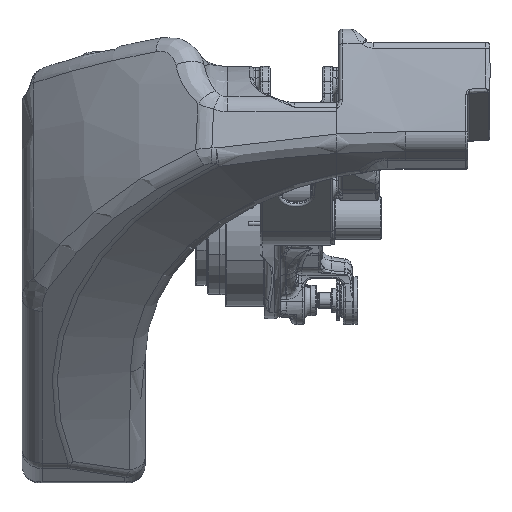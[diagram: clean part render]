
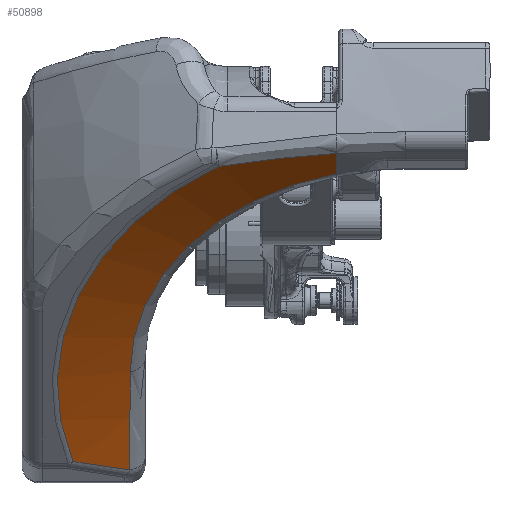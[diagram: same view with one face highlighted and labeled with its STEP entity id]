
A CAD part, left-side view. The second image highlights one B-rep face of the part: STEP entity #50898.
In plain terms, the highlighted conical face has half-angle 75 degrees and reference radius 645 mm.
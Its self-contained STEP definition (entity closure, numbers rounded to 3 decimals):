
#50822=AXIS2_PLACEMENT_3D('Circle Axis2P3D',#50820,#50821,$) ;
#50855=AXIS2_PLACEMENT_3D('Cone Axis2P3D',#50852,#50853,#50854) ;
#50878=AXIS2_PLACEMENT_3D('Circle Axis2P3D',#50876,#50877,$) ;
#50735=CARTESIAN_POINT('Vertex',(-646.222,682.059,938.492)) ;
#50739=CARTESIAN_POINT('Control Point',(-646.222,682.059,938.492)) ;
#50740=CARTESIAN_POINT('Control Point',(-632.383,682.059,923.123)) ;
#50741=CARTESIAN_POINT('Control Point',(-618.704,682.074,907.611)) ;
#50742=CARTESIAN_POINT('Control Point',(-605.151,682.104,891.92)) ;
#50743=CARTESIAN_POINT('Control Point',(-577.347,682.195,859.053)) ;
#50744=CARTESIAN_POINT('Control Point',(-549.836,682.347,825.123)) ;
#50745=CARTESIAN_POINT('Control Point',(-535.682,682.441,807.287)) ;
#50746=CARTESIAN_POINT('Control Point',(-510.506,682.634,774.883)) ;
#50747=CARTESIAN_POINT('Control Point',(-485.291,682.869,741.216)) ;
#50748=CARTESIAN_POINT('Control Point',(-474.22,682.979,726.2)) ;
#50749=CARTESIAN_POINT('Control Point',(-463.119,683.096,710.914)) ;
#50750=CARTESIAN_POINT('Control Point',(-451.983,683.22,695.348)) ;
#50751=CARTESIAN_POINT('Vertex',(-451.983,683.22,695.348)) ;
#50820=CARTESIAN_POINT('Axis2P3D Location',(-646.222,0.,938.492)) ;
#50824=CARTESIAN_POINT('Vertex',(-1088.205,170.,1429.364)) ;
#50852=CARTESIAN_POINT('Axis2P3D Location',(-638.842,0.,945.137)) ;
#50858=CARTESIAN_POINT('Control Point',(-1088.205,170.,1429.364)) ;
#50859=CARTESIAN_POINT('Control Point',(-1107.197,170.,1441.913)) ;
#50860=CARTESIAN_POINT('Control Point',(-1126.296,170.,1454.513)) ;
#50861=CARTESIAN_POINT('Control Point',(-1145.472,170.,1467.149)) ;
#50862=CARTESIAN_POINT('Control Point',(-1164.707,170.,1479.811)) ;
#50863=CARTESIAN_POINT('Vertex',(-1164.707,170.,1479.811)) ;
#50867=CARTESIAN_POINT('Control Point',(-1164.707,170.,1479.811)) ;
#50868=CARTESIAN_POINT('Control Point',(-1165.302,225.982,1476.358)) ;
#50869=CARTESIAN_POINT('Control Point',(-1166.129,282.797,1471.468)) ;
#50870=CARTESIAN_POINT('Control Point',(-1167.169,340.864,1465.092)) ;
#50871=CARTESIAN_POINT('Control Point',(-1168.389,400.467,1457.148)) ;
#50872=CARTESIAN_POINT('Control Point',(-1169.726,461.617,1447.62)) ;
#50873=CARTESIAN_POINT('Vertex',(-1169.726,461.617,1447.62)) ;
#50876=CARTESIAN_POINT('Axis2P3D Location',(-682.165,0.,906.129)) ;
#50880=CARTESIAN_POINT('Vertex',(-511.051,823.785,716.088)) ;
#50884=CARTESIAN_POINT('Control Point',(-511.051,823.785,716.088)) ;
#50885=CARTESIAN_POINT('Control Point',(-495.21,787.817,710.499)) ;
#50886=CARTESIAN_POINT('Control Point',(-480.026,752.309,705.159)) ;
#50887=CARTESIAN_POINT('Control Point',(-465.594,717.399,700.101)) ;
#50888=CARTESIAN_POINT('Control Point',(-451.983,683.22,695.348)) ;
#50821=DIRECTION('Axis2P3D Direction',(0.743,0.,0.669)) ;
#50853=DIRECTION('Axis2P3D Direction',(-0.743,0.,-0.669)) ;
#50854=DIRECTION('Axis2P3D XDirection',(-0.587,-0.479,0.652)) ;
#50877=DIRECTION('Axis2P3D Direction',(-0.743,0.,-0.669)) ;
#50891=ORIENTED_EDGE('',*,*,#50865,.T.) ;
#50892=ORIENTED_EDGE('',*,*,#50875,.T.) ;
#50893=ORIENTED_EDGE('',*,*,#50882,.T.) ;
#50894=ORIENTED_EDGE('',*,*,#50889,.T.) ;
#50895=ORIENTED_EDGE('',*,*,#50753,.F.) ;
#50896=ORIENTED_EDGE('',*,*,#50826,.F.) ;
#50898=ADVANCED_FACE('A2-011.1\\\X2\FF8AFF9FFF70FF82\X0\ \X2\FF8EFF9EFF83FF9EFF68FF70\X0\',(#50897),#50856,.F.) ;
#50738=B_SPLINE_CURVE_WITH_KNOTS('',5,(#50739,#50740,#50741,#50742,#50743,#50744,#50745,#50746,#50747,#50748,#50749,#50750),.UNSPECIFIED.,.F.,.U.,(6,3,3,6),(1066.06,1267.208,1481.714,1649.106),.UNSPECIFIED.) ;
#50857=B_SPLINE_CURVE_WITH_KNOTS('',4,(#50858,#50859,#50860,#50861,#50862),.UNSPECIFIED.,.F.,.U.,(5,5),(3.105,135.102),.UNSPECIFIED.) ;
#50866=B_SPLINE_CURVE_WITH_KNOTS('',5,(#50867,#50868,#50869,#50870,#50871,#50872),.UNSPECIFIED.,.F.,.U.,(6,6),(516.618,1014.784),.UNSPECIFIED.) ;
#50883=B_SPLINE_CURVE_WITH_KNOTS('',4,(#50884,#50885,#50886,#50887,#50888),.UNSPECIFIED.,.F.,.U.,(5,5),(99.937,340.254),.UNSPECIFIED.) ;
#50823=CIRCLE('generated circle',#50822,682.059) ;
#50879=CIRCLE('generated circle',#50878,862.565) ;
#50856=CONICAL_SURFACE('Cone',#50855,645.,1.309) ;
#50753=EDGE_CURVE('',#50736,#50752,#50738,.T.) ;
#50826=EDGE_CURVE('',#50825,#50736,#50823,.F.) ;
#50865=EDGE_CURVE('',#50825,#50864,#50857,.T.) ;
#50875=EDGE_CURVE('',#50864,#50874,#50866,.T.) ;
#50882=EDGE_CURVE('',#50874,#50881,#50879,.T.) ;
#50889=EDGE_CURVE('',#50881,#50752,#50883,.T.) ;
#50890=EDGE_LOOP('',(#50891,#50892,#50893,#50894,#50895,#50896)) ;
#50897=FACE_OUTER_BOUND('',#50890,.T.) ;
#50736=VERTEX_POINT('',#50735) ;
#50752=VERTEX_POINT('',#50751) ;
#50825=VERTEX_POINT('',#50824) ;
#50864=VERTEX_POINT('',#50863) ;
#50874=VERTEX_POINT('',#50873) ;
#50881=VERTEX_POINT('',#50880) ;
